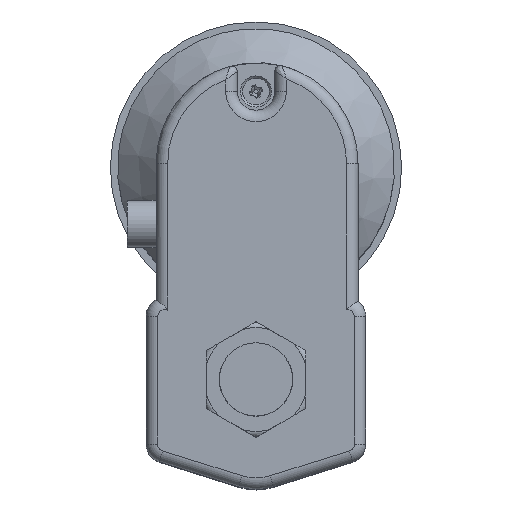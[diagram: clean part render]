
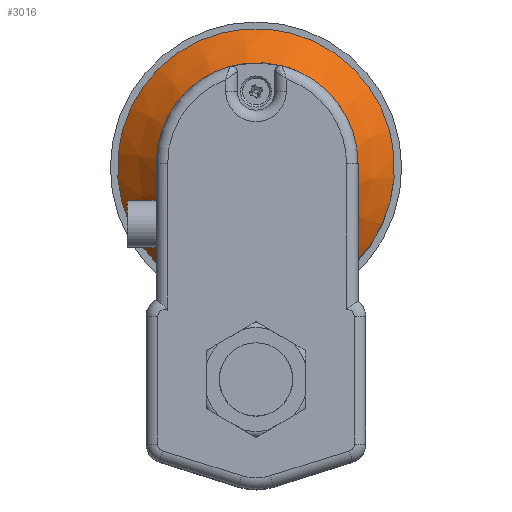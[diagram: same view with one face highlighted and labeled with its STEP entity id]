
A CAD part, top view. The second image highlights one B-rep face of the part: STEP entity #3016.
In plain terms, the highlighted conical face has half-angle 45 degrees and reference radius 48 mm.
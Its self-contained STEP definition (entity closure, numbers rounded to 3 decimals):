
#152 = EDGE_CURVE ( 'NONE', #2662, #2662, #3661, .T. ) ;
#172 = EDGE_CURVE ( 'NONE', #4499, #4382, #5921, .T. ) ;
#191 = EDGE_CURVE ( 'NONE', #4382, #4499, #3719, .T. ) ;
#863 = CARTESIAN_POINT ( 'NONE',  ( 0., 73.9, 67.5 ) ) ;
#865 = DIRECTION ( 'NONE',  ( 0., 0., 1. ) ) ;
#866 = DIRECTION ( 'NONE',  ( 0., -1., 0. ) ) ;
#912 = CARTESIAN_POINT ( 'NONE',  ( -27.908, 34.847, 53.5 ) ) ;
#916 = CARTESIAN_POINT ( 'NONE',  ( -26.826, 34.768, 54.065 ) ) ;
#917 = CARTESIAN_POINT ( 'NONE',  ( -25.733, 34.688, 54.609 ) ) ;
#918 = CARTESIAN_POINT ( 'NONE',  ( -23.531, 34.53, 55.644 ) ) ;
#919 = CARTESIAN_POINT ( 'NONE',  ( -22.421, 34.452, 56.137 ) ) ;
#920 = CARTESIAN_POINT ( 'NONE',  ( -19.06, 34.223, 57.53 ) ) ;
#921 = CARTESIAN_POINT ( 'NONE',  ( -16.779, 34.077, 58.344 ) ) ;
#922 = CARTESIAN_POINT ( 'NONE',  ( -13.28, 33.887, 59.356 ) ) ;
#923 = CARTESIAN_POINT ( 'NONE',  ( -12.101, 33.829, 59.657 ) ) ;
#924 = CARTESIAN_POINT ( 'NONE',  ( -9.715, 33.725, 60.183 ) ) ;
#925 = CARTESIAN_POINT ( 'NONE',  ( -8.505, 33.679, 60.407 ) ) ;
#926 = CARTESIAN_POINT ( 'NONE',  ( -6.081, 33.605, 60.767 ) ) ;
#927 = CARTESIAN_POINT ( 'NONE',  ( -4.863, 33.577, 60.903 ) ) ;
#928 = CARTESIAN_POINT ( 'NONE',  ( -2.415, 33.538, 61.085 ) ) ;
#929 = CARTESIAN_POINT ( 'NONE',  ( -1.188, 33.529, 61.13 ) ) ;
#930 = CARTESIAN_POINT ( 'NONE',  ( 2.477, 33.529, 61.127 ) ) ;
#931 = CARTESIAN_POINT ( 'NONE',  ( 4.908, 33.569, 60.942 ) ) ;
#932 = CARTESIAN_POINT ( 'NONE',  ( 8.537, 33.68, 60.402 ) ) ;
#933 = CARTESIAN_POINT ( 'NONE',  ( 9.746, 33.726, 60.177 ) ) ;
#934 = CARTESIAN_POINT ( 'NONE',  ( 12.13, 33.83, 59.65 ) ) ;
#935 = CARTESIAN_POINT ( 'NONE',  ( 13.307, 33.888, 59.348 ) ) ;
#936 = CARTESIAN_POINT ( 'NONE',  ( 16.801, 34.078, 58.337 ) ) ;
#937 = CARTESIAN_POINT ( 'NONE',  ( 19.078, 34.224, 57.523 ) ) ;
#938 = CARTESIAN_POINT ( 'NONE',  ( 23.55, 34.529, 55.668 ) ) ;
#939 = CARTESIAN_POINT ( 'NONE',  ( 25.745, 34.688, 54.629 ) ) ;
#940 = CARTESIAN_POINT ( 'NONE',  ( 27.908, 34.847, 53.5 ) ) ;
#984 = CARTESIAN_POINT ( 'NONE',  ( 0., 73.9, 53.5 ) ) ;
#985 = DIRECTION ( 'NONE',  ( 0., 0., 1. ) ) ;
#986 = DIRECTION ( 'NONE',  ( 0., -1., 0. ) ) ;
#1519 = DIRECTION ( 'NONE',  ( 0., 1., 0. ) ) ;
#1529 = CARTESIAN_POINT ( 'NONE',  ( 0., 73.9, 53.5 ) ) ;
#1530 = DIRECTION ( 'NONE',  ( 0., 0., -1. ) ) ;
#2104 = CARTESIAN_POINT ( 'NONE',  ( 27.908, 34.847, 53.5 ) ) ;
#2219 = CARTESIAN_POINT ( 'NONE',  ( -27.908, 34.847, 53.5 ) ) ;
#2662 = VERTEX_POINT ( 'NONE', #2663 ) ;
#2663 = CARTESIAN_POINT ( 'NONE',  ( 0., 39.9, 67.5 ) ) ;
#3016 = ADVANCED_FACE ( 'NONE', ( #3424, #3418 ), #3425, .T. ) ;
#3147 = EDGE_LOOP ( 'NONE', ( #4077, #4073 ) ) ;
#3418 = FACE_OUTER_BOUND ( 'NONE', #3147, .T. ) ;
#3424 = FACE_BOUND ( 'NONE', #5500, .T. ) ;
#3425 = CONICAL_SURFACE ( 'NONE', #5178, 48., 0.785 ) ;
#3661 = CIRCLE ( 'NONE', #5045, 34. ) ;
#3719 = CIRCLE ( 'NONE', #5064, 48. ) ;
#4073 = ORIENTED_EDGE ( 'NONE', *, *, #172, .T. ) ;
#4077 = ORIENTED_EDGE ( 'NONE', *, *, #191, .T. ) ;
#4110 = ORIENTED_EDGE ( 'NONE', *, *, #152, .F. ) ;
#4382 = VERTEX_POINT ( 'NONE', #2104 ) ;
#4499 = VERTEX_POINT ( 'NONE', #2219 ) ;
#5045 = AXIS2_PLACEMENT_3D ( 'NONE', #863, #865, #866 ) ;
#5064 = AXIS2_PLACEMENT_3D ( 'NONE', #984, #985, #986 ) ;
#5178 = AXIS2_PLACEMENT_3D ( 'NONE', #1529, #1530, #1519 ) ;
#5500 = EDGE_LOOP ( 'NONE', ( #4110 ) ) ;
#5921 = B_SPLINE_CURVE_WITH_KNOTS ( 'NONE', 3,
 ( #912, #916, #917, #918, #919, #920, #921, #922, #923, #924, #925, #926, #927, #928, #929, #930, #931, #932, #933, #934, #935, #936, #937, #938, #939, #940 ),
 .UNSPECIFIED., .F., .F.,
 ( 4, 2, 2, 2, 2, 2, 2, 2, 2, 2, 2, 2, 4 ),
 ( 0., 0.004, 0.007, 0.015, 0.018, 0.022, 0.026, 0.029, 0.037, 0.04, 0.044, 0.051, 0.059 ),
 .UNSPECIFIED. ) ;
